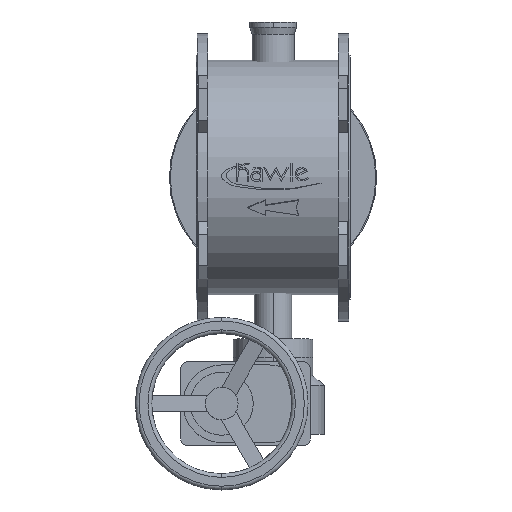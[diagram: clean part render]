
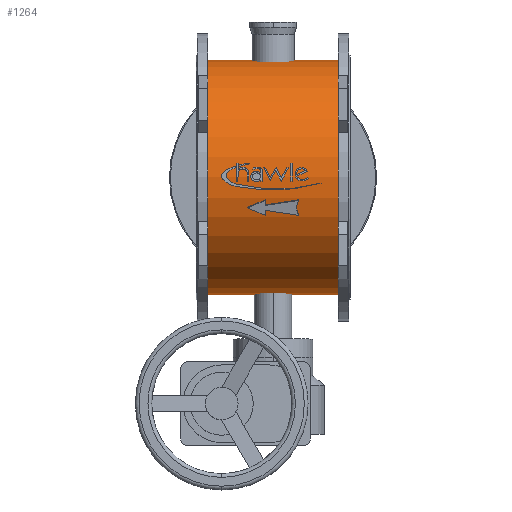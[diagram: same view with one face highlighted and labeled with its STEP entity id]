
A CAD part, top view. The second image highlights one B-rep face of the part: STEP entity #1264.
In plain terms, the highlighted cylindrical face has radius 251 mm (diameter 502 mm), a partial arc.
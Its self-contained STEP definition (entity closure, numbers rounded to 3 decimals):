
#1264=ADVANCED_FACE('',(#2646),#2647,.T.);
#2646=FACE_OUTER_BOUND('',#4499,.T.);
#2647=CYLINDRICAL_SURFACE('',#4500,251.0);
#4499=EDGE_LOOP('',(#6706,#6707,#6708,#6709));
#4500=AXIS2_PLACEMENT_3D('',#6710,#6711,#6712);
#6706=ORIENTED_EDGE('',*,*,#10263,.T.);
#6707=ORIENTED_EDGE('',*,*,#10264,.T.);
#6708=ORIENTED_EDGE('',*,*,#10265,.T.);
#6709=ORIENTED_EDGE('',*,*,#10266,.T.);
#6710=CARTESIAN_POINT('',(-304.5,0.,0.0));
#6711=DIRECTION('',(1.0,0.,0.0));
#6712=DIRECTION('',(0.,-1.0,0.0));
#10263=EDGE_CURVE('',#12282,#12283,#12284,.T.);
#10264=EDGE_CURVE('',#12283,#12285,#12286,.T.);
#10265=EDGE_CURVE('',#12285,#12287,#12288,.T.);
#10266=EDGE_CURVE('',#12287,#12282,#12289,.T.);
#12282=VERTEX_POINT('',#14807);
#12283=VERTEX_POINT('',#14808);
#12284=LINE('',#14809,#14810);
#12285=VERTEX_POINT('',#14811);
#12286=CIRCLE('',#14812,251.0);
#12287=VERTEX_POINT('',#14813);
#12288=LINE('',#14814,#14815);
#12289=CIRCLE('',#14816,251.0);
#14807=CARTESIAN_POINT('',(-304.5,-251.0,0.0));
#14808=CARTESIAN_POINT('',(-25.5,-251.0,0.0));
#14809=CARTESIAN_POINT('',(-304.5,-251.0,0.));
#14810=VECTOR('',#17334,1.0);
#14811=CARTESIAN_POINT('',(-25.5,251.0,0.));
#14812=AXIS2_PLACEMENT_3D('',#17335,#17336,#17337);
#14813=CARTESIAN_POINT('',(-304.5,251.0,0.));
#14814=CARTESIAN_POINT('',(-304.5,251.0,0.));
#14815=VECTOR('',#17338,1.0);
#14816=AXIS2_PLACEMENT_3D('',#17339,#17340,#17341);
#17334=DIRECTION('',(1.0,0.,0.0));
#17335=CARTESIAN_POINT('',(-25.5,0.,0.0));
#17336=DIRECTION('',(-1.0,0.,0.0));
#17337=DIRECTION('',(0.,-1.0,0.0));
#17338=DIRECTION('',(-1.0,0.,-0.0));
#17339=CARTESIAN_POINT('',(-304.5,0.,0.0));
#17340=DIRECTION('',(1.0,0.,0.0));
#17341=DIRECTION('',(0.,-1.0,0.0));
